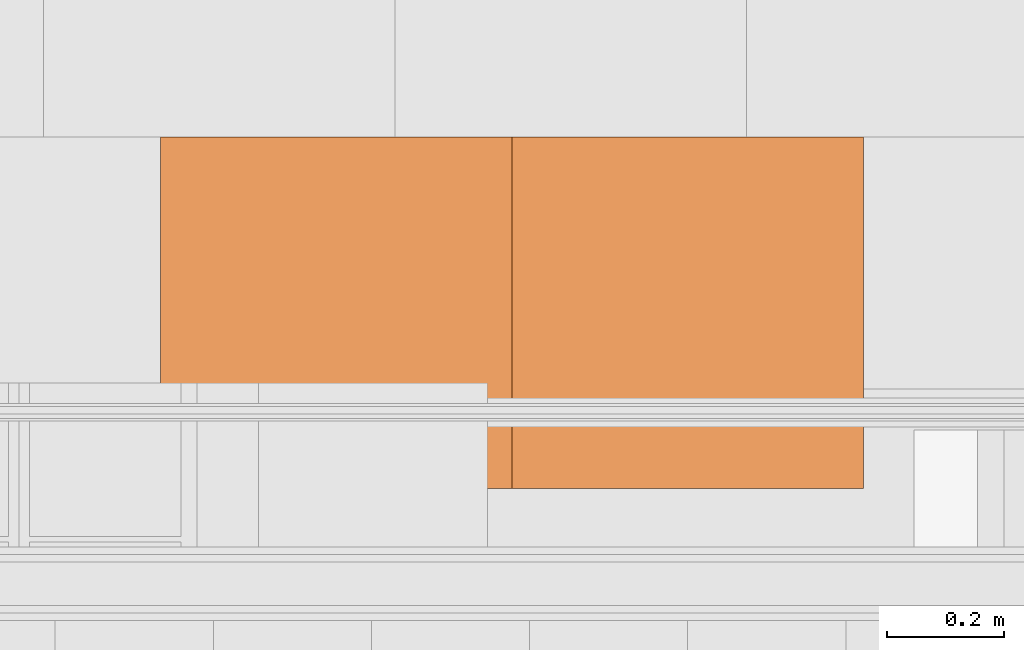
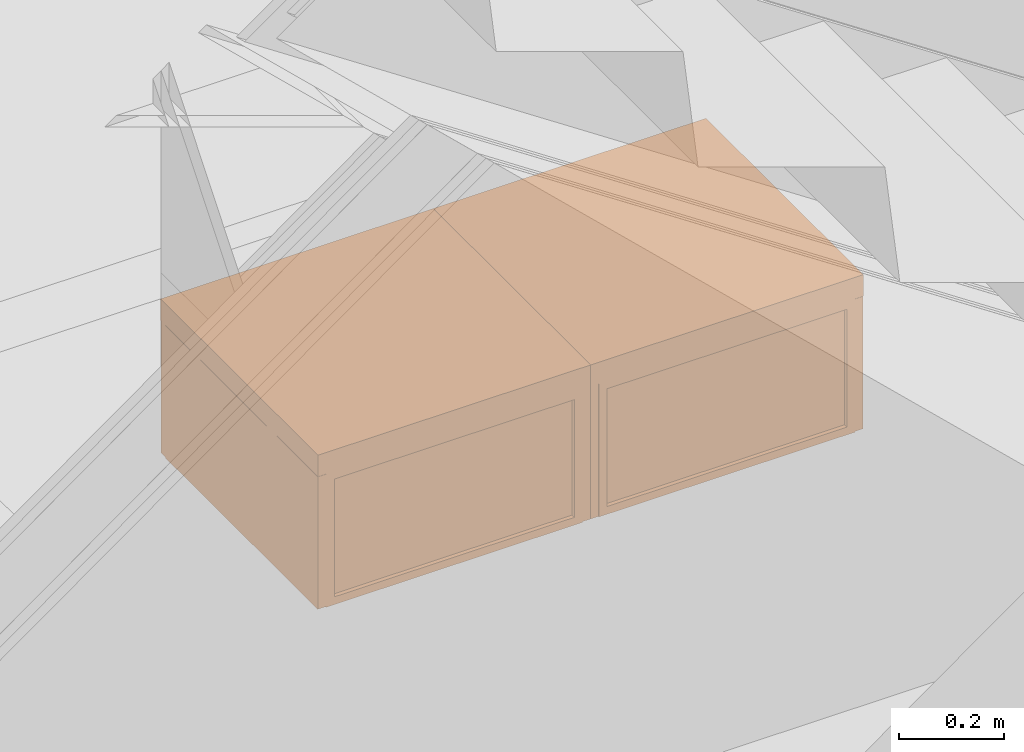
# One storey, part 141 of 165: 2 proxies.
"""IFC2X3 building model written with IfcOpenShell, lengths in millimetres."""

from ifc_helpers import new_model, entity, si_unit, converted_unit, derived_unit, money_unit, direction, frame, origin_with_axes, place, context, subcontext, project, spatial, faceted_brep, source, transform, mapped, type_object, type_shapes, element, save


model = new_model("IFC2X3")

# Units and contexts
model_context = context("Model", 3, precision=0.01, world=origin_with_axes(), true_north=direction((0.0, 1.0)))
body_context = subcontext(model_context, "Body", "Model", "MODEL_VIEW")
ifc_project = project(units=[si_unit("LENGTHUNIT", "METRE", prefix="MILLI"), si_unit("AREAUNIT", "SQUARE_METRE"), si_unit("VOLUMEUNIT", "CUBIC_METRE"), converted_unit("PLANEANGLEUNIT", "DEGREE", entity("IfcPlaneAngleMeasure", 0.0174532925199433), si_unit("PLANEANGLEUNIT", "RADIAN"), dimensions=[0, 0, 0, 0, 0, 0, 0]), money_unit("EUR"), converted_unit("TIMEUNIT", "Year", entity("IfcTimeMeasure", 31556926.0), si_unit("TIMEUNIT", "SECOND"), dimensions=[0, 0, 1, 0, 0, 0, 0]), si_unit("MASSUNIT", "GRAM", prefix="KILO"), si_unit("THERMODYNAMICTEMPERATUREUNIT", "DEGREE_CELSIUS"), si_unit("LUMINOUSINTENSITYUNIT", "LUMEN"), si_unit("ENERGYUNIT", "JOULE", prefix="MEGA"), derived_unit("THERMALCONDUCTANCEUNIT", [(si_unit("POWERUNIT", "WATT"), 1), (si_unit("LENGTHUNIT", "METRE"), -1), (si_unit("THERMODYNAMICTEMPERATUREUNIT", "KELVIN"), -1)]), derived_unit("SPECIFICHEATCAPACITYUNIT", [(si_unit("ENERGYUNIT", "JOULE"), 1), (si_unit("MASSUNIT", "GRAM", prefix="KILO"), -1), (si_unit("THERMODYNAMICTEMPERATUREUNIT", "KELVIN"), -1)]), derived_unit("MASSDENSITYUNIT", [(si_unit("MASSUNIT", "GRAM", prefix="KILO"), 1), (si_unit("VOLUMEUNIT", "CUBIC_METRE"), -1)])], contexts=[model_context])

# Site, building, storey
site_placement = place(None, origin_with_axes())
site = spatial("IfcSite", under=ifc_project, at=site_placement, Name="Site", CompositionType="ELEMENT")
building_placement = place(site_placement, origin_with_axes())
building = spatial("IfcBuilding", under=site, at=building_placement, Name="Naam gebouw", CompositionType="ELEMENT")
storey_placement = place(building_placement, origin_with_axes())
storey = spatial("IfcBuildingStorey", under=building, at=storey_placement, Name="Begane grond", CompositionType="ELEMENT", Elevation=0.0)

# Proxies
building_element_proxy_type = type_object("IfcBuildingElementProxyType", Name="Onderkast recht 26", PredefinedType="NOTDEFINED")
shared_shape_1 = source(origin_with_axes(), body_context, "Body", "Brep", [
    faceted_brep([(0.0, -600.0, 310.0), (600.0, -600.0, 310.0), (600.0, -600.0, 360.0), (0.0, -600.0, 360.0), (0.0, 0.0, 310.0), (600.0, 0.0, 310.0), (600.0, 0.0, 360.0), (0.0, 0.0, 360.0)], [[[0, 1, 2, 3]], [[0, 4, 5, 1]], [[1, 5, 6, 2]], [[3, 2, 6, 7]], [[4, 0, 3, 7]], [[5, 4, 7, 6]]]),
    faceted_brep([(558.9999999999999, -582.0, 23.0), (40.99999999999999, -582.0, 23.0), (40.99999999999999, -18.00000000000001, 23.0), (558.9999999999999, -18.00000000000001, 23.0), (558.9999999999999, -582.0, 33.0), (40.99999999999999, -582.0, 33.0), (40.99999999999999, -18.00000000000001, 33.0), (558.9999999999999, -18.00000000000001, 33.0)], [[[0, 1, 2, 3]], [[1, 0, 4, 5]], [[2, 1, 5, 6]], [[3, 2, 6, 7]], [[0, 3, 7, 4]], [[5, 4, 7, 6]]]),
    faceted_brep([(61.0, -582.0, 33.0), (40.99999999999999, -582.0, 33.0), (40.99999999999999, -18.00000000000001, 33.0), (61.0, -18.00000000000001, 33.0), (61.0, -582.0, 286.9999999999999), (40.99999999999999, -582.0, 286.9999999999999), (40.99999999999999, -18.00000000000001, 286.9999999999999), (61.0, -18.00000000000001, 286.9999999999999)], [[[0, 1, 2, 3]], [[1, 0, 4, 5]], [[2, 1, 5, 6]], [[3, 2, 6, 7]], [[0, 3, 7, 4]], [[5, 4, 7, 6]]]),
    faceted_brep([(558.9999999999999, -582.0, 33.0), (538.9999999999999, -582.0, 33.0), (538.9999999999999, -18.00000000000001, 33.0), (558.9999999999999, -18.00000000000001, 33.0), (558.9999999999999, -582.0, 286.9999999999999), (538.9999999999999, -582.0, 286.9999999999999), (538.9999999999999, -18.00000000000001, 286.9999999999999), (558.9999999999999, -18.00000000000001, 286.9999999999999)], [[[0, 1, 2, 3]], [[1, 0, 4, 5]], [[2, 1, 5, 6]], [[3, 2, 6, 7]], [[0, 3, 7, 4]], [[5, 4, 7, 6]]]),
    faceted_brep([(538.9999999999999, -33.00000000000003, 33.0), (61.0, -33.00000000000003, 33.0), (61.0, -23.00000000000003, 33.0), (538.9999999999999, -23.00000000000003, 33.0), (538.9999999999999, -33.00000000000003, 286.9999999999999), (61.0, -33.00000000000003, 286.9999999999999), (61.0, -23.00000000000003, 286.9999999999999), (538.9999999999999, -23.00000000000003, 286.9999999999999)], [[[0, 1, 2, 3]], [[1, 0, 4, 5]], [[2, 1, 5, 6]], [[3, 2, 6, 7]], [[0, 3, 7, 4]], [[5, 4, 7, 6]]]),
    faceted_brep([(599.0, -600.0, 1.000000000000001), (599.0, -600.0, 309.0), (1.000000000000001, -600.0, 309.0), (1.000000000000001, -600.0, 1.000000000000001), (328.1907786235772, -600.0, 240.26060429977), (329.5442325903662, -600.0, 235.2094453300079), (329.9999999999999, -600.0, 230.0), (329.5442325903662, -600.0, 224.7905546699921), (328.1907786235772, -600.0, 219.7393957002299), (325.9807621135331, -600.0, 215.0), (322.9813332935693, -600.0, 210.7163717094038), (319.2836282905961, -600.0, 207.0186667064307), (314.9999999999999, -600.0, 204.0192378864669), (310.26060429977, -600.0, 201.8092213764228), (305.2094453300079, -600.0, 200.4557674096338), (300.0, -600.0, 200.0), (294.7905546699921, -600.0, 200.4557674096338), (289.7393957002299, -600.0, 201.8092213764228), (285.0, -600.0, 204.0192378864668), (280.7163717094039, -600.0, 207.0186667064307), (277.0186667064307, -600.0, 210.7163717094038), (274.0192378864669, -600.0, 215.0), (271.8092213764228, -600.0, 219.7393957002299), (270.4557674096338, -600.0, 224.7905546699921), (270.0, -600.0, 230.0), (270.4557674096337, -600.0, 235.2094453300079), (271.8092213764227, -600.0, 240.2606042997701), (274.0192378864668, -600.0, 245.0), (277.0186667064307, -600.0, 249.2836282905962), (280.7163717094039, -600.0, 252.9813332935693), (285.0, -600.0, 255.9807621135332), (289.7393957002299, -600.0, 258.1907786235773), (294.7905546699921, -600.0, 259.5442325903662), (300.0, -600.0, 260.0), (305.2094453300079, -600.0, 259.5442325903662), (310.26060429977, -600.0, 258.1907786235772), (314.9999999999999, -600.0, 255.9807621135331), (319.2836282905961, -600.0, 252.9813332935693), (322.9813332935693, -600.0, 249.2836282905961), (325.9807621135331, -600.0, 244.9999999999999), (599.0, -582.0, 309.0), (599.0, -582.0, 1.000000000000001), (1.000000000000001, -582.0, 309.0), (1.000000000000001, -582.0, 1.000000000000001), (328.1907786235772, -582.0, 240.26060429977), (329.5442325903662, -582.0, 235.2094453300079), (329.9999999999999, -582.0, 230.0), (329.5442325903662, -582.0, 224.7905546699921), (328.1907786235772, -582.0, 219.7393957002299), (325.9807621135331, -582.0, 215.0), (322.9813332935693, -582.0, 210.7163717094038), (319.2836282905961, -582.0, 207.0186667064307), (314.9999999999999, -582.0, 204.0192378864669), (310.26060429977, -582.0, 201.8092213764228), (305.2094453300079, -582.0, 200.4557674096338), (300.0, -582.0, 200.0), (294.7905546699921, -582.0, 200.4557674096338), (289.7393957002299, -582.0, 201.8092213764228), (285.0, -582.0, 204.0192378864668), (280.7163717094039, -582.0, 207.0186667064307), (277.0186667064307, -582.0, 210.7163717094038), (274.0192378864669, -582.0, 215.0), (271.8092213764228, -582.0, 219.7393957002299), (270.4557674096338, -582.0, 224.7905546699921), (270.0, -582.0, 230.0), (270.4557674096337, -582.0, 235.2094453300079), (271.8092213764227, -582.0, 240.2606042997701), (274.0192378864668, -582.0, 245.0), (277.0186667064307, -582.0, 249.2836282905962), (280.7163717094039, -582.0, 252.9813332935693), (285.0, -582.0, 255.9807621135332), (289.7393957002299, -582.0, 258.1907786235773), (294.7905546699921, -582.0, 259.5442325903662), (300.0, -582.0, 260.0), (305.2094453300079, -582.0, 259.5442325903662), (310.26060429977, -582.0, 258.1907786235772), (314.9999999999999, -582.0, 255.9807621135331), (319.2836282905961, -582.0, 252.9813332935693), (322.9813332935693, -582.0, 249.2836282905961), (325.9807621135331, -582.0, 244.9999999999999)], [[[0, 1, 2, 3], [4, 5, 6, 7, 8, 9, 10, 11, 12, 13, 14, 15, 16, 17, 18, 19, 20, 21, 22, 23, 24, 25, 26, 27, 28, 29, 30, 31, 32, 33, 34, 35, 36, 37, 38, 39]], [[40, 1, 0, 41]], [[42, 2, 1, 40]], [[43, 3, 2, 42]], [[41, 0, 3, 43]], [[44, 45, 5, 4]], [[45, 46, 6, 5]], [[46, 47, 7, 6]], [[47, 48, 8, 7]], [[48, 49, 9, 8]], [[49, 50, 10, 9]], [[50, 51, 11, 10]], [[51, 52, 12, 11]], [[52, 53, 13, 12]], [[53, 54, 14, 13]], [[54, 55, 15, 14]], [[55, 56, 16, 15]], [[56, 57, 17, 16]], [[57, 58, 18, 17]], [[58, 59, 19, 18]], [[59, 60, 20, 19]], [[60, 61, 21, 20]], [[61, 62, 22, 21]], [[62, 63, 23, 22]], [[63, 64, 24, 23]], [[64, 65, 25, 24]], [[65, 66, 26, 25]], [[66, 67, 27, 26]], [[67, 68, 28, 27]], [[68, 69, 29, 28]], [[69, 70, 30, 29]], [[70, 71, 31, 30]], [[71, 72, 32, 31]], [[72, 73, 33, 32]], [[73, 74, 34, 33]], [[74, 75, 35, 34]], [[75, 76, 36, 35]], [[76, 77, 37, 36]], [[77, 78, 38, 37]], [[78, 79, 39, 38]], [[79, 44, 4, 39]], [[42, 40, 41, 43], [48, 47, 46, 45, 44, 79, 78, 77, 76, 75, 74, 73, 72, 71, 70, 69, 68, 67, 66, 65, 64, 63, 62, 61, 60, 59, 58, 57, 56, 55, 54, 53, 52, 51, 50, 49]]]),
    faceted_brep([(18.0, -1.0, 1.0), (18.0, -581.0, 1.0), (0.0, -581.0, 1.000000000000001), (0.0, -1.0, 1.000000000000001), (18.00000000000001, -1.0, 309.0), (18.00000000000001, -581.0, 309.0), (0.0, -581.0, 309.0), (0.0, -1.0, 309.0)], [[[0, 1, 2, 3]], [[0, 4, 5, 1]], [[1, 5, 6, 2]], [[3, 2, 6, 7]], [[4, 0, 3, 7]], [[5, 4, 7, 6]]]),
    faceted_brep([(582.0, -581.0, 1.0), (582.0, -1.000000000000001, 1.0), (600.0, -1.000000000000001, 1.000000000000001), (600.0, -581.0, 1.000000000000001), (582.0, -581.0, 309.0), (582.0, -1.000000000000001, 309.0), (600.0, -1.000000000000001, 309.0), (600.0, -581.0, 309.0)], [[[0, 1, 2, 3]], [[0, 4, 5, 1]], [[1, 5, 6, 2]], [[3, 2, 6, 7]], [[4, 0, 3, 7]], [[5, 4, 7, 6]]]),
    faceted_brep([(36.0, -582.0, 0.0), (564.0, -582.0, 0.0), (564.0, -582.0, 18.0), (36.0, -582.0, 18.0), (36.0, 0.0, 0.0), (564.0, 0.0, 0.0), (564.0, 0.0, 18.0), (36.0, 0.0, 18.0)], [[[0, 1, 2, 3]], [[0, 4, 5, 1]], [[1, 5, 6, 2]], [[3, 2, 6, 7]], [[4, 0, 3, 7]], [[5, 4, 7, 6]]]),
    faceted_brep([(36.0, -582.0, 292.0), (36.0, -522.0, 292.0), (564.0, -522.0, 292.0), (564.0, -582.0, 292.0), (36.0, -582.0, 310.0), (36.0, -522.0, 310.0), (564.0, -522.0, 310.0), (564.0, -582.0, 310.0)], [[[0, 1, 2, 3]], [[0, 4, 5, 1]], [[1, 5, 6, 2]], [[3, 2, 6, 7]], [[4, 0, 3, 7]], [[5, 4, 7, 6]]]),
    faceted_brep([(564.0, 0.0, 292.0), (564.0, -60.0, 292.0), (36.0, -60.0, 292.0), (36.0, 0.0, 292.0), (564.0, 0.0, 310.0), (564.0, -60.0, 310.0), (36.0, -60.0, 310.0), (36.0, 0.0, 310.0)], [[[0, 1, 2, 3]], [[0, 4, 5, 1]], [[1, 5, 6, 2]], [[3, 2, 6, 7]], [[4, 0, 3, 7]], [[5, 4, 7, 6]]]),
    faceted_brep([(18.0, 0.0, 0.0), (18.0, -582.0, 0.0), (18.0, -582.0, 310.0), (18.0, 0.0, 310.0), (36.0, 0.0, 0.0), (36.0, -582.0, 0.0), (36.0, -582.0, 310.0), (36.0, 0.0, 310.0)], [[[0, 1, 2, 3]], [[0, 4, 5, 1]], [[1, 5, 6, 2]], [[3, 2, 6, 7]], [[4, 0, 3, 7]], [[5, 4, 7, 6]]]),
    faceted_brep([(582.0, -582.0, 0.0), (582.0, 0.0, 0.0), (582.0, 0.0, 310.0), (582.0, -582.0, 310.0), (564.0, -582.0, 0.0), (564.0, 0.0, 0.0), (564.0, 0.0, 310.0), (564.0, -582.0, 310.0)], [[[0, 1, 2, 3]], [[0, 4, 5, 1]], [[1, 5, 6, 2]], [[3, 2, 6, 7]], [[4, 0, 3, 7]], [[5, 4, 7, 6]]]),
    faceted_brep([(564.0, -9.0, 18.0), (36.00000000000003, -9.0, 18.0), (36.00000000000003, -9.0, 292.0000000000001), (564.0, -9.0, 292.0000000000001), (564.0, -18.0, 18.0), (36.00000000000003, -18.0, 18.0), (36.00000000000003, -18.0, 292.0000000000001), (564.0, -18.0, 292.0000000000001)], [[[0, 1, 2, 3]], [[0, 4, 5, 1]], [[1, 5, 6, 2]], [[3, 2, 6, 7]], [[4, 0, 3, 7]], [[5, 4, 7, 6]]]),
])
proxy_1_placement = place(storey_placement, frame((17200.00001687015, 5830.000239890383, 359.9999999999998), z_axis=(0.0, 0.0, 1.0), x_axis=(-1.0, 0.0, 0.0)))
element("IfcBuildingElementProxy", 1, at=proxy_1_placement, inside=storey, type_object=building_element_proxy_type, Name="_Leeg", context=body_context, shape_type="MappedRepresentation", body=[
    mapped(shared_shape_1, transform((0.0, 0.0, 0.0))),
])
shared_shape_2 = source(origin_with_axes(), body_context, "Body", "Brep", [
    faceted_brep([(0.0, -600.0, 310.0), (0.0, -600.0, 360.0), (-600.0, -600.0, 360.0), (-600.0, -600.0, 310.0), (0.0, 0.0, 310.0), (0.0, 0.0, 360.0), (-600.0, 0.0, 360.0), (-600.0, 0.0, 310.0)], [[[0, 1, 2, 3]], [[4, 5, 1, 0]], [[1, 5, 6, 2]], [[3, 2, 6, 7]], [[0, 3, 7, 4]], [[7, 6, 5, 4]]]),
    faceted_brep([(-558.9999999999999, -582.0, 23.0), (-558.9999999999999, -18.00000000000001, 23.0), (-40.99999999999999, -18.00000000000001, 23.0), (-40.99999999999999, -582.0, 23.0), (-558.9999999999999, -582.0, 33.0), (-558.9999999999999, -18.00000000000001, 33.0), (-40.99999999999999, -18.00000000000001, 33.0), (-40.99999999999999, -582.0, 33.0)], [[[0, 1, 2, 3]], [[0, 4, 5, 1]], [[1, 5, 6, 2]], [[2, 6, 7, 3]], [[3, 7, 4, 0]], [[7, 6, 5, 4]]]),
    faceted_brep([(-61.0, -582.0, 33.0), (-61.0, -18.00000000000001, 33.0), (-40.99999999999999, -18.00000000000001, 33.0), (-40.99999999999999, -582.0, 33.0), (-61.0, -582.0, 286.9999999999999), (-61.0, -18.00000000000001, 286.9999999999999), (-40.99999999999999, -18.00000000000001, 286.9999999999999), (-40.99999999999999, -582.0, 286.9999999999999)], [[[0, 1, 2, 3]], [[0, 4, 5, 1]], [[1, 5, 6, 2]], [[2, 6, 7, 3]], [[3, 7, 4, 0]], [[7, 6, 5, 4]]]),
    faceted_brep([(-558.9999999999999, -582.0, 33.0), (-558.9999999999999, -18.00000000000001, 33.0), (-538.9999999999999, -18.00000000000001, 33.0), (-538.9999999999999, -582.0, 33.0), (-558.9999999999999, -582.0, 286.9999999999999), (-558.9999999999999, -18.00000000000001, 286.9999999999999), (-538.9999999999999, -18.00000000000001, 286.9999999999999), (-538.9999999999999, -582.0, 286.9999999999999)], [[[0, 1, 2, 3]], [[0, 4, 5, 1]], [[1, 5, 6, 2]], [[2, 6, 7, 3]], [[3, 7, 4, 0]], [[7, 6, 5, 4]]]),
    faceted_brep([(-538.9999999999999, -33.00000000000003, 33.0), (-538.9999999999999, -23.00000000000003, 33.0), (-61.0, -23.00000000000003, 33.0), (-61.0, -33.00000000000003, 33.0), (-538.9999999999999, -33.00000000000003, 286.9999999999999), (-538.9999999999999, -23.00000000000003, 286.9999999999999), (-61.0, -23.00000000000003, 286.9999999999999), (-61.0, -33.00000000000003, 286.9999999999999)], [[[0, 1, 2, 3]], [[0, 4, 5, 1]], [[1, 5, 6, 2]], [[2, 6, 7, 3]], [[3, 7, 4, 0]], [[7, 6, 5, 4]]]),
    faceted_brep([(-599.0, -600.0, 1.000000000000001), (-1.000000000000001, -600.0, 1.000000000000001), (-1.000000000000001, -600.0, 309.0), (-599.0, -600.0, 309.0), (-328.1907786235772, -600.0, 240.26060429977), (-325.9807621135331, -600.0, 244.9999999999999), (-322.9813332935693, -600.0, 249.2836282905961), (-319.2836282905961, -600.0, 252.9813332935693), (-314.9999999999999, -600.0, 255.9807621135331), (-310.26060429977, -600.0, 258.1907786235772), (-305.2094453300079, -600.0, 259.5442325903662), (-300.0, -600.0, 260.0), (-294.7905546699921, -600.0, 259.5442325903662), (-289.7393957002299, -600.0, 258.1907786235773), (-285.0, -600.0, 255.9807621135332), (-280.7163717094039, -600.0, 252.9813332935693), (-277.0186667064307, -600.0, 249.2836282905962), (-274.0192378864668, -600.0, 245.0), (-271.8092213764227, -600.0, 240.2606042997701), (-270.4557674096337, -600.0, 235.2094453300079), (-270.0, -600.0, 230.0), (-270.4557674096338, -600.0, 224.7905546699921), (-271.8092213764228, -600.0, 219.7393957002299), (-274.0192378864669, -600.0, 215.0), (-277.0186667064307, -600.0, 210.7163717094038), (-280.7163717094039, -600.0, 207.0186667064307), (-285.0, -600.0, 204.0192378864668), (-289.7393957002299, -600.0, 201.8092213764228), (-294.7905546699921, -600.0, 200.4557674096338), (-300.0, -600.0, 200.0), (-305.2094453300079, -600.0, 200.4557674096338), (-310.26060429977, -600.0, 201.8092213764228), (-314.9999999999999, -600.0, 204.0192378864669), (-319.2836282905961, -600.0, 207.0186667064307), (-322.9813332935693, -600.0, 210.7163717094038), (-325.9807621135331, -600.0, 215.0), (-328.1907786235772, -600.0, 219.7393957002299), (-329.5442325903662, -600.0, 224.7905546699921), (-329.9999999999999, -600.0, 230.0), (-329.5442325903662, -600.0, 235.2094453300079), (-599.0, -582.0, 1.000000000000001), (-1.000000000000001, -582.0, 1.000000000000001), (-1.000000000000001, -582.0, 309.0), (-599.0, -582.0, 309.0), (-325.9807621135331, -582.0, 244.9999999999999), (-328.1907786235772, -582.0, 240.26060429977), (-322.9813332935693, -582.0, 249.2836282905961), (-319.2836282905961, -582.0, 252.9813332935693), (-314.9999999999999, -582.0, 255.9807621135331), (-310.26060429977, -582.0, 258.1907786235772), (-305.2094453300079, -582.0, 259.5442325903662), (-300.0, -582.0, 260.0), (-294.7905546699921, -582.0, 259.5442325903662), (-289.7393957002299, -582.0, 258.1907786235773), (-285.0, -582.0, 255.9807621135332), (-280.7163717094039, -582.0, 252.9813332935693), (-277.0186667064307, -582.0, 249.2836282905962), (-274.0192378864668, -582.0, 245.0), (-271.8092213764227, -582.0, 240.2606042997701), (-270.4557674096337, -582.0, 235.2094453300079), (-270.0, -582.0, 230.0), (-270.4557674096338, -582.0, 224.7905546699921), (-271.8092213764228, -582.0, 219.7393957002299), (-274.0192378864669, -582.0, 215.0), (-277.0186667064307, -582.0, 210.7163717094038), (-280.7163717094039, -582.0, 207.0186667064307), (-285.0, -582.0, 204.0192378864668), (-289.7393957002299, -582.0, 201.8092213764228), (-294.7905546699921, -582.0, 200.4557674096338), (-300.0, -582.0, 200.0), (-305.2094453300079, -582.0, 200.4557674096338), (-310.26060429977, -582.0, 201.8092213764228), (-314.9999999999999, -582.0, 204.0192378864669), (-319.2836282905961, -582.0, 207.0186667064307), (-322.9813332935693, -582.0, 210.7163717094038), (-325.9807621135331, -582.0, 215.0), (-328.1907786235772, -582.0, 219.7393957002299), (-329.5442325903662, -582.0, 224.7905546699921), (-329.9999999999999, -582.0, 230.0), (-329.5442325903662, -582.0, 235.2094453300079)], [[[0, 1, 2, 3], [4, 5, 6, 7, 8, 9, 10, 11, 12, 13, 14, 15, 16, 17, 18, 19, 20, 21, 22, 23, 24, 25, 26, 27, 28, 29, 30, 31, 32, 33, 34, 35, 36, 37, 38, 39]], [[40, 41, 1, 0]], [[41, 42, 2, 1]], [[42, 43, 3, 2]], [[43, 40, 0, 3]], [[44, 5, 4, 45]], [[46, 6, 5, 44]], [[47, 7, 6, 46]], [[48, 8, 7, 47]], [[49, 9, 8, 48]], [[50, 10, 9, 49]], [[51, 11, 10, 50]], [[52, 12, 11, 51]], [[53, 13, 12, 52]], [[54, 14, 13, 53]], [[55, 15, 14, 54]], [[56, 16, 15, 55]], [[57, 17, 16, 56]], [[58, 18, 17, 57]], [[59, 19, 18, 58]], [[60, 20, 19, 59]], [[61, 21, 20, 60]], [[62, 22, 21, 61]], [[63, 23, 22, 62]], [[64, 24, 23, 63]], [[65, 25, 24, 64]], [[66, 26, 25, 65]], [[67, 27, 26, 66]], [[68, 28, 27, 67]], [[69, 29, 28, 68]], [[70, 30, 29, 69]], [[71, 31, 30, 70]], [[72, 32, 31, 71]], [[73, 33, 32, 72]], [[74, 34, 33, 73]], [[75, 35, 34, 74]], [[76, 36, 35, 75]], [[77, 37, 36, 76]], [[78, 38, 37, 77]], [[79, 39, 38, 78]], [[45, 4, 39, 79]], [[42, 41, 40, 43], [76, 75, 74, 73, 72, 71, 70, 69, 68, 67, 66, 65, 64, 63, 62, 61, 60, 59, 58, 57, 56, 55, 54, 53, 52, 51, 50, 49, 48, 47, 46, 44, 45, 79, 78, 77]]]),
    faceted_brep([(-18.0, -1.0, 1.0), (0.0, -1.0, 1.000000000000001), (0.0, -581.0, 1.000000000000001), (-18.0, -581.0, 1.0), (-18.00000000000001, -1.0, 309.0), (0.0, -1.0, 309.0), (0.0, -581.0, 309.0), (-18.00000000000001, -581.0, 309.0)], [[[0, 1, 2, 3]], [[4, 5, 1, 0]], [[1, 5, 6, 2]], [[3, 2, 6, 7]], [[0, 3, 7, 4]], [[7, 6, 5, 4]]]),
    faceted_brep([(-582.0, -581.0, 1.0), (-600.0, -581.0, 1.000000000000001), (-600.0, -1.000000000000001, 1.000000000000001), (-582.0, -1.000000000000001, 1.0), (-582.0, -581.0, 309.0), (-600.0, -581.0, 309.0), (-600.0, -1.000000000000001, 309.0), (-582.0, -1.000000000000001, 309.0)], [[[0, 1, 2, 3]], [[4, 5, 1, 0]], [[1, 5, 6, 2]], [[3, 2, 6, 7]], [[0, 3, 7, 4]], [[7, 6, 5, 4]]]),
    faceted_brep([(-36.0, -582.0, 0.0), (-36.0, -582.0, 18.0), (-564.0, -582.0, 18.0), (-564.0, -582.0, 0.0), (-36.0, 0.0, 0.0), (-36.0, 0.0, 18.0), (-564.0, 0.0, 18.0), (-564.0, 0.0, 0.0)], [[[0, 1, 2, 3]], [[4, 5, 1, 0]], [[1, 5, 6, 2]], [[3, 2, 6, 7]], [[0, 3, 7, 4]], [[7, 6, 5, 4]]]),
    faceted_brep([(-36.0, -582.0, 292.0), (-564.0, -582.0, 292.0), (-564.0, -522.0, 292.0), (-36.0, -522.0, 292.0), (-36.0, -582.0, 310.0), (-564.0, -582.0, 310.0), (-564.0, -522.0, 310.0), (-36.0, -522.0, 310.0)], [[[0, 1, 2, 3]], [[4, 5, 1, 0]], [[1, 5, 6, 2]], [[3, 2, 6, 7]], [[0, 3, 7, 4]], [[7, 6, 5, 4]]]),
    faceted_brep([(-564.0, 0.0, 292.0), (-36.0, 0.0, 292.0), (-36.0, -60.0, 292.0), (-564.0, -60.0, 292.0), (-564.0, 0.0, 310.0), (-36.0, 0.0, 310.0), (-36.0, -60.0, 310.0), (-564.0, -60.0, 310.0)], [[[0, 1, 2, 3]], [[4, 5, 1, 0]], [[1, 5, 6, 2]], [[3, 2, 6, 7]], [[0, 3, 7, 4]], [[7, 6, 5, 4]]]),
    faceted_brep([(-18.0, 0.0, 0.0), (-18.0, 0.0, 310.0), (-18.0, -582.0, 310.0), (-18.0, -582.0, 0.0), (-36.0, 0.0, 0.0), (-36.0, 0.0, 310.0), (-36.0, -582.0, 310.0), (-36.0, -582.0, 0.0)], [[[0, 1, 2, 3]], [[4, 5, 1, 0]], [[1, 5, 6, 2]], [[3, 2, 6, 7]], [[0, 3, 7, 4]], [[7, 6, 5, 4]]]),
    faceted_brep([(-582.0, -582.0, 0.0), (-582.0, -582.0, 310.0), (-582.0, 0.0, 310.0), (-582.0, 0.0, 0.0), (-564.0, -582.0, 0.0), (-564.0, -582.0, 310.0), (-564.0, 0.0, 310.0), (-564.0, 0.0, 0.0)], [[[0, 1, 2, 3]], [[4, 5, 1, 0]], [[1, 5, 6, 2]], [[3, 2, 6, 7]], [[0, 3, 7, 4]], [[7, 6, 5, 4]]]),
    faceted_brep([(-564.0, -9.0, 18.0), (-564.0, -9.0, 292.0000000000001), (-36.00000000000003, -9.0, 292.0000000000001), (-36.00000000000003, -9.0, 18.0), (-564.0, -18.0, 18.0), (-564.0, -18.0, 292.0000000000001), (-36.00000000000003, -18.0, 292.0000000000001), (-36.00000000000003, -18.0, 18.0)], [[[0, 1, 2, 3]], [[4, 5, 1, 0]], [[1, 5, 6, 2]], [[3, 2, 6, 7]], [[0, 3, 7, 4]], [[7, 6, 5, 4]]]),
])
type_shapes(building_element_proxy_type, [shared_shape_1, shared_shape_2])
proxy_2_placement = place(storey_placement, frame((16000.00001687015, 5830.000239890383, 359.9999999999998), z_axis=(0.0, 0.0, 1.0), x_axis=(-1.0, 0.0, 0.0)))
element("IfcBuildingElementProxy", 2, at=proxy_2_placement, inside=storey, type_object=building_element_proxy_type, Name="_Leeg", context=body_context, shape_type="MappedRepresentation", body=[
    mapped(shared_shape_2, transform((0.0, 0.0, 0.0))),
])

save(model, "model.ifc")
